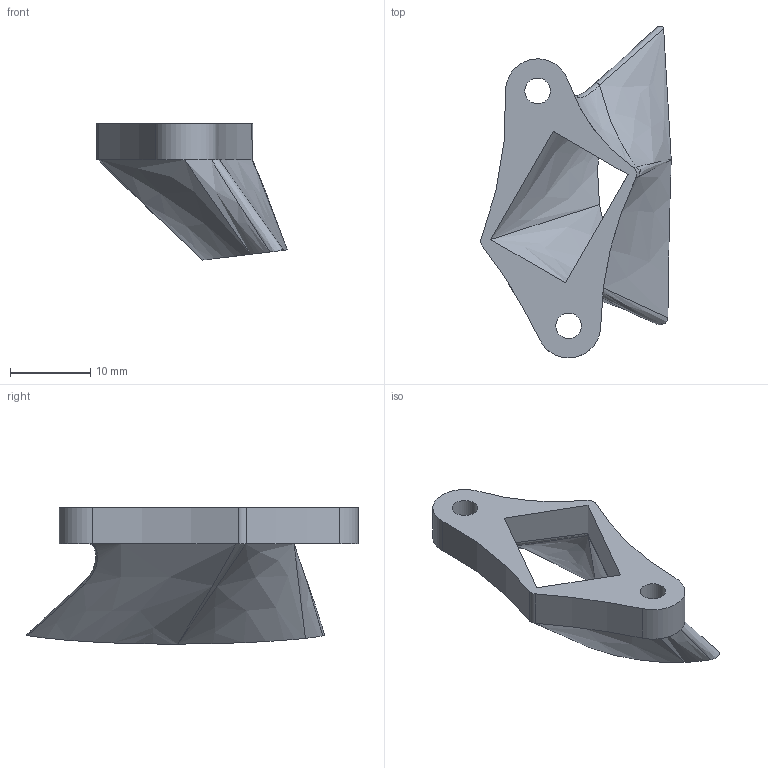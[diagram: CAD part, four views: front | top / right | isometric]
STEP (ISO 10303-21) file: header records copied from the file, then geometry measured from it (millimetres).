
FILE_DESCRIPTION(/* description */ (''),/* implementation_level */ '2;1');
FILE_NAME(/* name */ 'D:\3D печать\Мои проекты\Archy MK 2\STEP\диффузор.stp',/* time_stamp */ '2019-03-20T22:15:30+06:00',/* author */ ('Пользователь'),/* organization */ (''),/* preprocessor_version */ 'ST-DEVELOPER v16.5',/* originating_system */ 'Autodesk Inventor 2017',/* authorisation */ '');
FILE_SCHEMA (('AUTOMOTIVE_DESIGN { 1 0 10303 214 3 1 1 }'));
Length unit declared in the file: millimetre
Products named in the file (1): диффузор
Bounding box: 23.76 x 41.44 x 17 mm (x, y, z)
Volume: 2242.7 mm3; surface area: 3080.7 mm2
Topology: 1 solids, 1 shells, 41 faces, 113 edges, 76 vertices
Faces by surface type: bspline 23, cylinder 10, plane 8
Full cylindrical faces by diameter (mm): 3.2 x2
Entity records: 2028 total; most frequent: CARTESIAN_POINT 1062, ORIENTED_EDGE 214, DIRECTION 152, EDGE_CURVE 107, VERTEX_POINT 70, AXIS2_PLACEMENT_3D 62, EDGE_LOOP 49, FACE_OUTER_BOUND 41
